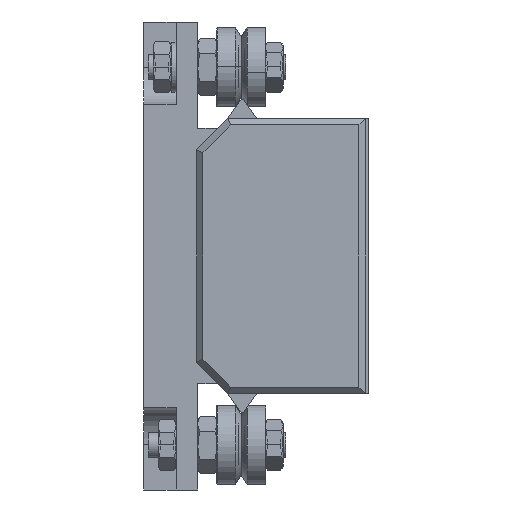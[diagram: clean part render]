
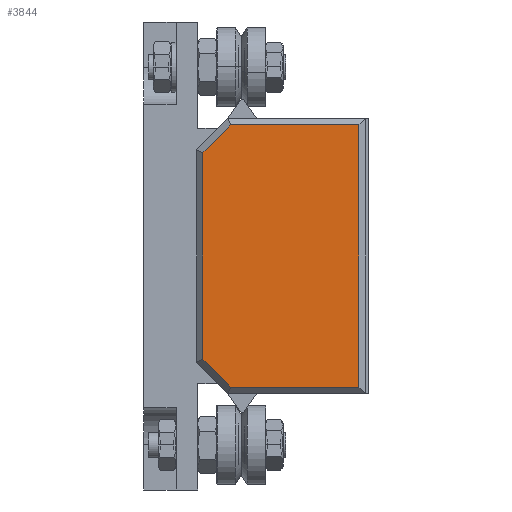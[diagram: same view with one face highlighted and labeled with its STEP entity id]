
A CAD part, left-side view. The second image highlights one B-rep face of the part: STEP entity #3844.
In plain terms, the highlighted planar face has unit normal (-1, 0, 0) as drawn and (0, 0, 1) by its records, which use the part's own axes.
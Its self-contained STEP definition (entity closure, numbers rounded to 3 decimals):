
#157 = AXIS2_PLACEMENT_3D ( 'NONE', #12914, #13002, #3226 ) ;
#367 = PLANE ( 'NONE',  #157 ) ;
#758 = CARTESIAN_POINT ( 'NONE',  ( -21.293, 21.293, 6. ) ) ;
#982 = VECTOR ( 'NONE', #4563, 1000. ) ;
#1436 = CARTESIAN_POINT ( 'NONE',  ( 21., 0., 6. ) ) ;
#1555 = CARTESIAN_POINT ( 'NONE',  ( 21., 1., 6. ) ) ;
#1616 = CARTESIAN_POINT ( 'NONE',  ( 0., 26., 6. ) ) ;
#2781 = LINE ( 'NONE', #1616, #13941 ) ;
#3226 = DIRECTION ( 'NONE',  ( -1., 0., 0. ) ) ;
#3844 = ADVANCED_FACE ( 'NONE', ( #14153 ), #367, .F. ) ;
#3935 = DIRECTION ( 'NONE',  ( -1., 0., 0. ) ) ;
#3962 = LINE ( 'NONE', #12752, #5495 ) ;
#4363 = VERTEX_POINT ( 'NONE', #10509 ) ;
#4490 = EDGE_CURVE ( 'NONE', #6288, #13509, #8628, .T. ) ;
#4563 = DIRECTION ( 'NONE',  ( 0., -1., 0. ) ) ;
#4697 = ORIENTED_EDGE ( 'NONE', *, *, #11122, .T. ) ;
#4769 = CARTESIAN_POINT ( 'NONE',  ( 0., 1., 6. ) ) ;
#5495 = VECTOR ( 'NONE', #14139, 1000. ) ;
#5498 = ORIENTED_EDGE ( 'NONE', *, *, #6653, .T. ) ;
#5609 = EDGE_LOOP ( 'NONE', ( #4697, #14905, #8267, #5498, #15687, #14970 ) ) ;
#5673 = VECTOR ( 'NONE', #15032, 1000. ) ;
#6252 = VERTEX_POINT ( 'NONE', #7915 ) ;
#6288 = VERTEX_POINT ( 'NONE', #6695 ) ;
#6653 = EDGE_CURVE ( 'NONE', #12805, #6252, #3962, .T. ) ;
#6695 = CARTESIAN_POINT ( 'NONE',  ( -21., 1., 6. ) ) ;
#6909 = LINE ( 'NONE', #758, #10035 ) ;
#7901 = LINE ( 'NONE', #1436, #8320 ) ;
#7915 = CARTESIAN_POINT ( 'NONE',  ( 16.586, 26., 6. ) ) ;
#7941 = EDGE_CURVE ( 'NONE', #10390, #4363, #6909, .T. ) ;
#8267 = ORIENTED_EDGE ( 'NONE', *, *, #11301, .T. ) ;
#8320 = VECTOR ( 'NONE', #14150, 1000. ) ;
#8628 = LINE ( 'NONE', #4769, #5673 ) ;
#9302 = EDGE_CURVE ( 'NONE', #6252, #10390, #2781, .T. ) ;
#9624 = DIRECTION ( 'NONE',  ( -0.707, -0.707, 0. ) ) ;
#10035 = VECTOR ( 'NONE', #9624, 1000. ) ;
#10390 = VERTEX_POINT ( 'NONE', #14945 ) ;
#10509 = CARTESIAN_POINT ( 'NONE',  ( -21., 21.586, 6. ) ) ;
#11122 = EDGE_CURVE ( 'NONE', #4363, #6288, #12022, .T. ) ;
#11301 = EDGE_CURVE ( 'NONE', #13509, #12805, #7901, .T. ) ;
#12022 = LINE ( 'NONE', #15809, #982 ) ;
#12142 = CARTESIAN_POINT ( 'NONE',  ( 21., 21.586, 6. ) ) ;
#12752 = CARTESIAN_POINT ( 'NONE',  ( 16.293, 26.293, 6. ) ) ;
#12805 = VERTEX_POINT ( 'NONE', #12142 ) ;
#12914 = CARTESIAN_POINT ( 'NONE',  ( 0., 0., 6. ) ) ;
#13002 = DIRECTION ( 'NONE',  ( 0., 0., -1. ) ) ;
#13509 = VERTEX_POINT ( 'NONE', #1555 ) ;
#13941 = VECTOR ( 'NONE', #3935, 1000. ) ;
#14139 = DIRECTION ( 'NONE',  ( -0.707, 0.707, 0. ) ) ;
#14150 = DIRECTION ( 'NONE',  ( 0., 1., 0. ) ) ;
#14153 = FACE_OUTER_BOUND ( 'NONE', #5609, .T. ) ;
#14905 = ORIENTED_EDGE ( 'NONE', *, *, #4490, .T. ) ;
#14945 = CARTESIAN_POINT ( 'NONE',  ( -16.586, 26., 6. ) ) ;
#14970 = ORIENTED_EDGE ( 'NONE', *, *, #7941, .T. ) ;
#15032 = DIRECTION ( 'NONE',  ( 1., 0., 0. ) ) ;
#15687 = ORIENTED_EDGE ( 'NONE', *, *, #9302, .T. ) ;
#15809 = CARTESIAN_POINT ( 'NONE',  ( -21., 0., 6. ) ) ;
